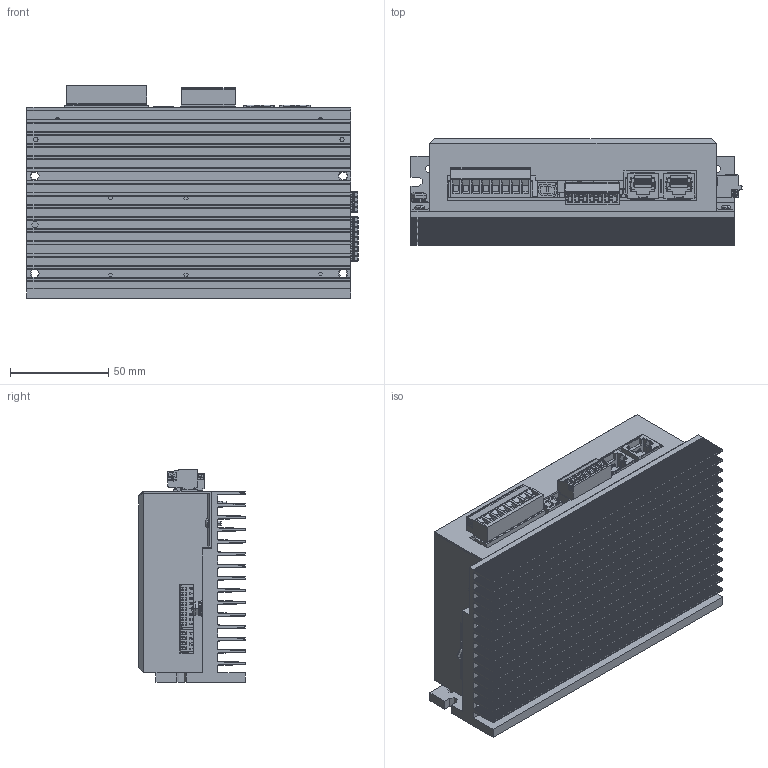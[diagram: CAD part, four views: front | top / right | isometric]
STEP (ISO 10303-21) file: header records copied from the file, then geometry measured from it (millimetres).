
FILE_DESCRIPTION((''),'2;1');
FILE_NAME('SW1D4080N361-00_ASM','2011-11-21T',('Renato Bisson'),(''),'PRO/ENGINEER BY PARAMETRIC TECHNOLOGY CORPORATION, 2006320','PRO/ENGINEER BY PARAMETRIC TECHNOLOGY CORPORATION, 2006320','');
FILE_SCHEMA(('CONFIG_CONTROL_DESIGN'));
Products named in the file (33): RA00742; AD-00744-00; DIST_MF_M2E5X5; PB-DMD00-00; 1757307; 1757077; SMD_4-DIPSWITCH_RIGTH_ANGLE; SMD_8-DIPSWITCH_RIGTH_ANGLE; CE_16X25_P7E62; WPW05VIS-00; 1803329; 1881516; 1881464; SMD_COND_ELETTROL_6E3X6E3; SMD_COND_ELETTROL_8X10E5; LHWPW05-00; TO263AB; C-1241050-04-3-A7; 1803620; 1881341; 1881396; LS7MH-5X20-V; CP8E5X26E5P22E5; 901220762; C-5555153-01-B-3D; JUMPER; DMD00-V02_ASM; TCC_M2E5X06; MC-00743-00; MAR-PN4; MAR_SN4; TCC_M4X08; SW1D4080N361-00_ASM
Assembly tree (54 placements, depth 3):
  SW1D4080N361-00_ASM
    RA00742
    AD-00744-00
    DIST_MF_M2E5X5  x2
    DMD00-V02_ASM
      PB-DMD00-00
      1757307
      1757077
      SMD_4-DIPSWITCH_RIGTH_ANGLE
      SMD_8-DIPSWITCH_RIGTH_ANGLE
      CE_16X25_P7E62
      WPW05VIS-00
      1803329
      1881516
      1881464
      SMD_COND_ELETTROL_6E3X6E3
      SMD_COND_ELETTROL_8X10E5  x2
      LHWPW05-00
      TO263AB  x8
      C-1241050-04-3-A7
      1803620
      1881341
      1881396
      LS7MH-5X20-V
      CP8E5X26E5P22E5  x2
      901220762
      C-5555153-01-B-3D  x2
      JUMPER  x4
    TCC_M2E5X06  x9
    MC-00743-00
    MAR-PN4
    MAR_SN4
    TCC_M4X08
Bounding box: 169.11 x 54.3 x 108.46 mm (x, y, z)
Topology: 52 solids, 68 shells, 10196 faces, 27536 edges, 17957 vertices
Faces by surface type: plane 7611, cylinder 2165, cone 154, sphere 120, torus 104, bspline 42
Entity records: 300988 total; most frequent: CARTESIAN_POINT 66430, ORIENTED_EDGE 49580, DIRECTION 47085, EDGE_CURVE 24824, VECTOR 19587, LINE 19587, VERTEX_POINT 16183, AXIS2_PLACEMENT_3D 13749
